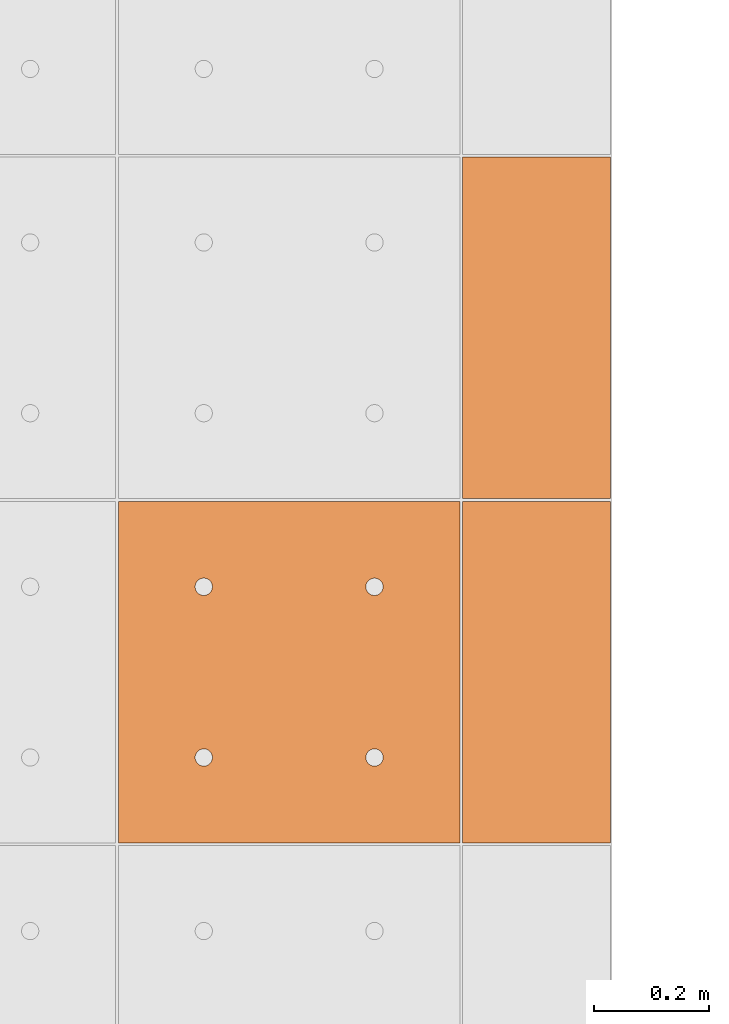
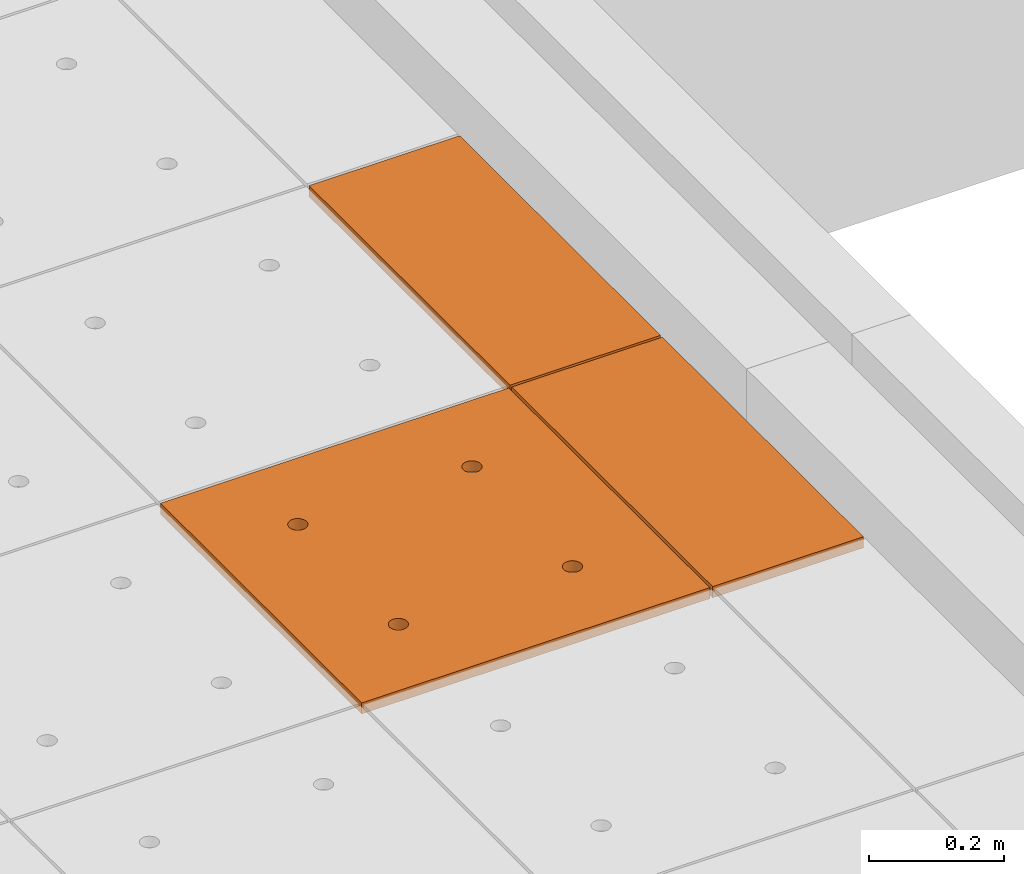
# One storey, part 294 of 338: 3 proxies, 1 element without a shape of its own.
"""IFC2X3 building model written with IfcOpenShell, lengths in millimetres."""

import ifcopenshell
import ifcopenshell.guid

model = None  # the IFC model being written
_history = None  # IfcOwnerHistory: only IFC2X3 demands one
_inside = {}  # id of a spatial element -> (the spatial element, [elements in it])
_under = {}  # id of a project, library or spatial element -> (it, [spatial elements below it])
_declared = {}  # id of a project -> (the project, [libraries it declares])
_typed = {}  # id of a type object -> (the type object, [elements of that type])
_made_of = {}  # id of a material, layer set ... -> (it, [elements and type objects made of it])


def new_model(schema):
    """Start an empty IFC model of exactly this schema.

    Asked for "IFC4X3", IfcOpenShell would pick the latest addendum, in which some entities
    have other attributes; the version numbers below select the first issue.
    IFC2X3 requires an IfcOwnerHistory on every rooted entity: one is made here for all.
    """
    global model, _history
    if schema == "IFC4X3":
        model = ifcopenshell.file(schema_version=(4, 3, 0, 0))
    else:
        model = ifcopenshell.file(schema=schema)
    _inside.clear()
    _under.clear()
    _declared.clear()
    _typed.clear()
    _made_of.clear()
    _history = None
    if model.schema == "IFC2X3":
        org = make("IfcOrganization", Name="unknown")
        user = make(
            "IfcPersonAndOrganization",
            ThePerson=make("IfcPerson", FamilyName="unknown"),
            TheOrganization=org,
        )
        app = make(
            "IfcApplication",
            ApplicationDeveloper=org,
            Version="unknown",
            ApplicationFullName="unknown",
            ApplicationIdentifier="unknown",
        )
        _history = make(
            "IfcOwnerHistory",
            OwningUser=user,
            OwningApplication=app,
            ChangeAction="ADDED",
            CreationDate=0,
        )
    return model


def make(cls, **values):
    """One entity of the class cls with the attributes given. An attribute that is None is left unset."""
    return model.create_entity(
        cls, **{name: value for name, value in values.items() if value is not None}
    )


def entity(cls, *values):
    """Any entity or typed value of the class cls, its attributes in the order of the schema. None: left unset."""
    e = model.create_entity(cls)
    for i, value in enumerate(values):
        if value is not None:
            e[i] = value
    return e


def rooted(cls, **values):
    """An entity with a GlobalId (a new one), such as an element, a storey or a relation."""
    return make(cls, GlobalId=ifcopenshell.guid.new(), OwnerHistory=_history, **values)


def si_unit(unit_type, name, prefix=None):
    """IfcSIUnit, for example si_unit("LENGTHUNIT", "METRE", prefix="MILLI")."""
    return make("IfcSIUnit", UnitType=unit_type, Prefix=prefix, Name=name)


def converted_unit(unit_type, name, factor, base, dimensions=None, offset=None):
    """IfcConversionBasedUnit, such as the inch: factor (a typed value) times the base unit."""
    return make(
        "IfcConversionBasedUnit"
        if offset is None
        else "IfcConversionBasedUnitWithOffset",
        ConversionOffset=offset,
        Dimensions=None
        if dimensions is None
        else entity("IfcDimensionalExponents", *dimensions),
        UnitType=unit_type,
        Name=name,
        ConversionFactor=make(
            "IfcMeasureWithUnit", ValueComponent=factor, UnitComponent=base
        ),
    )


def derived_unit(unit_type, elements):
    """IfcDerivedUnit: a product of units, each with its exponent."""
    return make(
        "IfcDerivedUnit",
        Elements=[
            make("IfcDerivedUnitElement", Unit=unit, Exponent=power)
            for unit, power in elements
        ],
        UnitType=unit_type,
    )


def money_unit(currency):
    """IfcMonetaryUnit."""
    return make("IfcMonetaryUnit", Currency=currency)


def assignment(units):
    """IfcUnitAssignment: the units of a project."""
    return None if units is None else make("IfcUnitAssignment", Units=units)


def point(xyz):
    """IfcCartesianPoint."""
    return None if xyz is None else make("IfcCartesianPoint", Coordinates=xyz)


def direction(xyz):
    """IfcDirection."""
    return None if xyz is None else make("IfcDirection", DirectionRatios=xyz)


def frame(location, z_axis=None, x_axis=None):
    """IfcAxis2Placement3D, a coordinate frame: its origin and axes. An axis left out is left unset."""
    return make(
        "IfcAxis2Placement3D",
        Location=point(location),
        Axis=direction(z_axis),
        RefDirection=direction(x_axis),
    )


def origin_with_axes():
    """The frame at (0, 0, 0) with the z axis (0, 0, 1) and the x axis (1, 0, 0) written out."""
    return frame((0.0, 0.0, 0.0), z_axis=(0.0, 0.0, 1.0), x_axis=(1.0, 0.0, 0.0))


def place(relative_to, where):
    """IfcLocalPlacement: puts the frame where relative to a parent placement (None: the world)."""
    return make(
        "IfcLocalPlacement", PlacementRelTo=relative_to, RelativePlacement=where
    )


def context(
    kind, dimensions, precision=None, world=None, true_north=None, identifier=None
):
    """IfcGeometricRepresentationContext, for example the 3D "Model" context."""
    return make(
        "IfcGeometricRepresentationContext",
        ContextIdentifier=identifier,
        ContextType=kind,
        CoordinateSpaceDimension=dimensions,
        Precision=precision,
        WorldCoordinateSystem=world,
        TrueNorth=true_north,
    )


def subcontext(parent, identifier, kind, view, scale=None):
    """IfcGeometricRepresentationSubContext, for example "Body" below "Model"."""
    return make(
        "IfcGeometricRepresentationSubContext",
        ContextIdentifier=identifier,
        ContextType=kind,
        ParentContext=parent,
        TargetScale=scale,
        TargetView=view,
    )


def project(units=None, contexts=None):
    """IfcProject with its units and contexts."""
    return rooted(
        "IfcProject",
        Name="project",
        RepresentationContexts=contexts,
        UnitsInContext=assignment(units),
    )


def spatial(cls, under=None, at=None, **own):
    """A site, building, storey or space (cls), placed at a placement, below another one or the project."""
    s = rooted(cls, ObjectPlacement=at, **own)
    if under is not None:
        _under.setdefault(under.id(), (under, []))[1].append(s)
    return s


def faces_of(points, faces, orient=None, outer=None):
    """IfcFace entities. A face is a list of loops; a loop is a list of indices into points, from 0.

    orient and outer hold one flag for each loop. By default every Orientation is true, the
    first loop of a face is its IfcFaceOuterBound and the others are IfcFaceBound.
    """
    made = []
    for i, loops in enumerate(faces):
        bounds = []
        for j, loop in enumerate(loops):
            is_outer = j == 0 if outer is None else outer[i][j]
            bounds.append(
                make(
                    "IfcFaceOuterBound" if is_outer else "IfcFaceBound",
                    Bound=make("IfcPolyLoop", Polygon=[points[k] for k in loop]),
                    Orientation=True if orient is None else orient[i][j],
                )
            )
        made.append(make("IfcFace", Bounds=bounds))
    return made


def faceted_brep(points, faces, orient=None, outer=None, voids=None):
    """IfcFacetedBrep: a solid bounded by flat faces; with voids (closed shells), ...WithVoids."""
    shared = [point(p) for p in points]
    hull = make("IfcClosedShell", CfsFaces=faces_of(shared, faces, orient, outer))
    if voids is None:
        return make("IfcFacetedBrep", Outer=hull)
    return make(
        "IfcFacetedBrepWithVoids",
        Outer=hull,
        Voids=[
            make(cls, CfsFaces=faces_of(shared, fs, o, b)) for cls, fs, o, b in voids
        ],
    )


def shape(context_of_items, identifier, shape_type, items):
    """IfcShapeRepresentation: the items that make up one representation, for example the "Body"."""
    return make(
        "IfcShapeRepresentation",
        ContextOfItems=context_of_items,
        RepresentationIdentifier=identifier,
        RepresentationType=shape_type,
        Items=items,
    )


def source(mapping_origin, context_of_items, identifier, shape_type, items):
    """IfcRepresentationMap: a shape defined once, which mapped items show again and again."""
    return make(
        "IfcRepresentationMap",
        MappingOrigin=mapping_origin,
        MappedRepresentation=shape(context_of_items, identifier, shape_type, items),
    )


def transform(
    local_origin,
    x_axis=None,
    y_axis=None,
    z_axis=None,
    scale=None,
    scale2=None,
    scale3=None,
    uniform=True,
):
    """IfcCartesianTransformationOperator3D, or its non-uniform kind. x_axis, y_axis, z_axis: its Axis1, 2, 3."""
    if uniform:
        return make(
            "IfcCartesianTransformationOperator3D",
            Axis1=direction(x_axis),
            Axis2=direction(y_axis),
            LocalOrigin=point(local_origin),
            Scale=scale,
            Axis3=direction(z_axis),
        )
    return make(
        "IfcCartesianTransformationOperator3DnonUniform",
        Axis1=direction(x_axis),
        Axis2=direction(y_axis),
        LocalOrigin=point(local_origin),
        Scale=scale,
        Axis3=direction(z_axis),
        Scale2=scale2,
        Scale3=scale3,
    )


def mapped(mapping_source, mapping_target):
    """IfcMappedItem: shows the shape of a source again, moved by a transform."""
    return make(
        "IfcMappedItem", MappingSource=mapping_source, MappingTarget=mapping_target
    )


def material(Name=None, Category=None):
    """IfcMaterial."""
    return make("IfcMaterial", Name=Name, Category=Category)


def made_of(thing, what):
    """Note that an element or type object is made of a material, layer set ...; save() writes the relation."""
    if what is not None:
        _made_of.setdefault(what.id(), (what, []))[1].append(thing)
    return thing


def type_object(cls, material=None, **own):
    """A type object (cls), such as IfcWallType, which elements share."""
    return made_of(rooted(cls, **own), material)


def type_shapes(of_type, sources):
    """Give a type object the sources (RepresentationMaps) that its elements show as mapped items."""
    of_type.RepresentationMaps = sources


def element(
    cls,
    number,
    at=None,
    inside=None,
    cuts=None,
    type_object=None,
    material=None,
    context=None,
    identifier="Body",
    shape_type=None,
    held_by="IfcProductDefinitionShape",
    body=None,
    shapes=None,
    **own,
):
    """One element of the class cls, such as IfcWall. Its Tag is "e" and its number.

    at: its placement. inside: the storey or other place that contains it. cuts: it is an
    opening in that element (IfcRelVoidsElement). A single representation is given by context,
    identifier, shape_type and body (its items); several are given by shapes. held_by: the class
    of the entity that holds the representations. save() writes the other relations.
    """
    e = rooted(cls, Tag="e%d" % number, ObjectPlacement=at, **own)
    if body is not None:
        shapes = [shape(context, identifier, shape_type, body)]
    if shapes is not None:
        e.Representation = make(held_by, Representations=shapes)
    if inside is not None:
        _inside.setdefault(inside.id(), (inside, []))[1].append(e)
    if cuts is not None:
        rooted(
            "IfcRelVoidsElement", RelatingBuildingElement=cuts, RelatedOpeningElement=e
        )
    if type_object is not None:
        _typed.setdefault(type_object.id(), (type_object, []))[1].append(e)
    return made_of(e, material)


def aggregate(whole, parts):
    """IfcRelAggregates: a whole, such as a stair, and the parts it consists of."""
    return rooted("IfcRelAggregates", RelatingObject=whole, RelatedObjects=parts)


def save(model, path):
    """Write the relations noted so far, then the file.

    IfcRelAggregates (storeys below a building ...), IfcRelContainedInSpatialStructure (elements
    in a storey), IfcRelDefinesByType, IfcRelAssociatesMaterial and IfcRelDeclares: one each for
    every whole, place, type object, material and project.
    """
    for whole, parts in _under.values():
        aggregate(whole, parts)
    for where, things in _inside.values():
        rooted(
            "IfcRelContainedInSpatialStructure",
            RelatedElements=things,
            RelatingStructure=where,
        )
    for kind, things in _typed.values():
        rooted("IfcRelDefinesByType", RelatedObjects=things, RelatingType=kind)
    for what, things in _made_of.values():
        rooted("IfcRelAssociatesMaterial", RelatedObjects=things, RelatingMaterial=what)
    for by, libraries in _declared.values():
        rooted("IfcRelDeclares", RelatingContext=by, RelatedDefinitions=libraries)
    model.write(path)


model = new_model("IFC2X3")

# Units and contexts
model_context = context("Model", 3, precision=0.01, world=origin_with_axes(), true_north=direction((0.0, 1.0)))
plan_context = context("Plan", 3, precision=0.01, world=origin_with_axes(), true_north=direction((0.0, 1.0)))
body_context = subcontext(model_context, "Body", "Model", "MODEL_VIEW")
ifc_project = project(units=[si_unit("LENGTHUNIT", "METRE", prefix="MILLI"), si_unit("AREAUNIT", "SQUARE_METRE"), si_unit("VOLUMEUNIT", "CUBIC_METRE"), converted_unit("PLANEANGLEUNIT", "DEGREE", entity("IfcPlaneAngleMeasure", 0.0174532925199), si_unit("PLANEANGLEUNIT", "RADIAN"), dimensions=[0, 0, 0, 0, 0, 0, 0]), money_unit("EUR"), converted_unit("TIMEUNIT", "Year", entity("IfcTimeMeasure", 31556926.0), si_unit("TIMEUNIT", "SECOND"), dimensions=[0, 0, 1, 0, 0, 0, 0]), si_unit("MASSUNIT", "GRAM", prefix="KILO"), si_unit("THERMODYNAMICTEMPERATUREUNIT", "DEGREE_CELSIUS"), si_unit("LUMINOUSINTENSITYUNIT", "LUMEN"), si_unit("ENERGYUNIT", "JOULE", prefix="MEGA"), derived_unit("THERMALCONDUCTANCEUNIT", [(si_unit("POWERUNIT", "WATT"), 1), (si_unit("LENGTHUNIT", "METRE"), -1), (si_unit("THERMODYNAMICTEMPERATUREUNIT", "KELVIN"), -1)]), derived_unit("SPECIFICHEATCAPACITYUNIT", [(si_unit("ENERGYUNIT", "JOULE"), 1), (si_unit("MASSUNIT", "GRAM", prefix="KILO"), -1), (si_unit("THERMODYNAMICTEMPERATUREUNIT", "KELVIN"), -1)]), derived_unit("MASSDENSITYUNIT", [(si_unit("MASSUNIT", "GRAM", prefix="KILO"), 1), (si_unit("VOLUMEUNIT", "CUBIC_METRE"), -1)])], contexts=[model_context, plan_context])

# Site, building, storey
site_placement = place(None, origin_with_axes())
site = spatial("IfcSite", under=ifc_project, at=site_placement, Name="Fortuinstraat Woensdrecht", CompositionType="ELEMENT")
building_placement = place(site_placement, origin_with_axes())
building = spatial("IfcBuilding", under=site, at=building_placement, Name="IKC Fortuna", CompositionType="ELEMENT")
storey_placement = place(building_placement, origin_with_axes())
storey = spatial("IfcBuildingStorey", under=building, at=storey_placement, Name="00 begane grond", CompositionType="ELEMENT", Elevation=0.0)

# Covering, proxies
covering_type = type_object("IfcCoveringType", Name="Curtain Wall Type", PredefinedType="CEILING")
covering_placement = place(storey_placement, frame((31656.9226967, 15748.5304598, 3210.0), z_axis=(0.0, 0.0, 1.0), x_axis=(1.0, 0.0, 0.0)))
covering = element("IfcCovering", 1, at=covering_placement, inside=storey, type_object=covering_type, Name="45_Plafondafwerking_P01", PredefinedType="CEILING")
ifc_material = material(Name="Gipsplaat")
building_element_proxy_type_1 = type_object("IfcBuildingElementProxyType", Name="Main Panel 600 x 600 x 20", PredefinedType="NOTDEFINED")
shared_shape_1 = source(origin_with_axes(), body_context, "Body", "Brep", [
    faceted_brep([(2.49999999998, 2.49999999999, -10.0), (300.0, 2.49999999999, -10.0), (300.0, 2.49999999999, 10.0), (2.49999999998, 2.49999999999, 10.0), (2.49999999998, 300.0, -10.0), (2.49999999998, 597.5, -10.0), (300.0, 597.5, -10.0), (597.5, 597.5, -10.0), (597.5, 300.0, -10.0), (597.5, 2.49999999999, -10.0), (166.25, 450.06232995, -10.0), (165.79423259, 452.64711538, -10.0), (164.896546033, 455.11348892, -10.0), (163.58421608, 457.38651108, -10.0), (161.897117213, 459.39711721, -10.0), (159.886511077, 461.08421608, -10.0), (157.613488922, 462.39654603, -10.0), (155.147115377, 463.29423259, -10.0), (152.562329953, 463.75, -10.0), (149.937670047, 463.75, -10.0), (147.352884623, 463.29423259, -10.0), (144.886511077, 462.39654603, -10.0), (142.613488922, 461.08421608, -10.0), (140.602882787, 459.39711721, -10.0), (138.91578392, 457.38651108, -10.0), (137.603453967, 455.11348892, -10.0), (136.705767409, 452.64711538, -10.0), (136.25, 450.06232995, -10.0), (136.25, 448.75, -10.0), (136.25, 447.43767005, -10.0), (136.705767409, 444.85288462, -10.0), (137.603453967, 442.38651108, -10.0), (138.91578392, 440.11348892, -10.0), (140.602882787, 438.10288279, -10.0), (142.613488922, 436.41578392, -10.0), (144.886511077, 435.10345397, -10.0), (147.352884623, 434.20576741, -10.0), (149.937670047, 433.75, -10.0), (152.562329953, 433.75, -10.0), (155.147115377, 434.20576741, -10.0), (157.613488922, 435.10345397, -10.0), (159.886511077, 436.41578392, -10.0), (161.897117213, 438.10288279, -10.0), (163.58421608, 440.11348892, -10.0), (164.896546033, 442.38651108, -10.0), (165.79423259, 444.85288462, -10.0), (166.25, 447.43767005, -10.0), (463.75, 450.06232995, -10.0), (463.29423259, 452.64711538, -10.0), (462.396546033, 455.11348892, -10.0), (461.08421608, 457.38651108, -10.0), (459.397117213, 459.39711721, -10.0), (457.386511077, 461.08421608, -10.0), (455.113488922, 462.39654603, -10.0), (452.647115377, 463.29423259, -10.0), (450.062329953, 463.75, -10.0), (447.437670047, 463.75, -10.0), (444.852884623, 463.29423259, -10.0), (442.386511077, 462.39654603, -10.0), (440.113488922, 461.08421608, -10.0), (438.102882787, 459.39711721, -10.0), (436.41578392, 457.38651108, -10.0), (435.103453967, 455.11348892, -10.0), (434.205767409, 452.64711538, -10.0), (433.75, 450.06232995, -10.0), (433.75, 448.75, -10.0), (433.75, 447.43767005, -10.0), (434.205767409, 444.85288462, -10.0), (435.103453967, 442.38651108, -10.0), (436.41578392, 440.11348892, -10.0), (438.102882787, 438.10288279, -10.0), (440.113488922, 436.41578392, -10.0), (442.386511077, 435.10345397, -10.0), (444.852884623, 434.20576741, -10.0), (447.437670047, 433.75, -10.0), (450.062329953, 433.75, -10.0), (452.647115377, 434.20576741, -10.0), (455.113488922, 435.10345397, -10.0), (457.386511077, 436.41578392, -10.0), (459.397117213, 438.10288279, -10.0), (461.08421608, 440.11348892, -10.0), (462.396546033, 442.38651108, -10.0), (463.29423259, 444.85288462, -10.0), (463.75, 447.43767005, -10.0), (463.75, 152.56232995, -10.0), (463.29423259, 155.14711538, -10.0), (462.396546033, 157.61348892, -10.0), (461.08421608, 159.88651108, -10.0), (459.397117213, 161.89711721, -10.0), (457.386511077, 163.58421608, -10.0), (455.113488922, 164.89654603, -10.0), (452.647115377, 165.79423259, -10.0), (450.062329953, 166.25, -10.0), (447.437670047, 166.25, -10.0), (444.852884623, 165.79423259, -10.0), (442.386511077, 164.89654603, -10.0), (440.113488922, 163.58421608, -10.0), (438.102882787, 161.89711721, -10.0), (436.41578392, 159.88651108, -10.0), (435.103453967, 157.61348892, -10.0), (434.205767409, 155.14711538, -10.0), (433.75, 152.56232995, -10.0), (433.75, 151.25, -10.0), (433.75, 149.93767005, -10.0), (434.205767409, 147.35288462, -10.0), (435.103453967, 144.88651108, -10.0), (436.41578392, 142.61348892, -10.0), (438.102882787, 140.60288279, -10.0), (440.113488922, 138.91578392, -10.0), (442.386511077, 137.60345397, -10.0), (444.852884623, 136.70576741, -10.0), (447.437670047, 136.25, -10.0), (450.062329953, 136.25, -10.0), (452.647115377, 136.70576741, -10.0), (455.113488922, 137.60345397, -10.0), (457.386511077, 138.91578392, -10.0), (459.397117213, 140.60288279, -10.0), (461.08421608, 142.61348892, -10.0), (462.396546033, 144.88651108, -10.0), (463.29423259, 147.35288462, -10.0), (463.75, 149.93767005, -10.0), (166.25, 152.56232995, -10.0), (165.79423259, 155.14711538, -10.0), (164.896546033, 157.61348892, -10.0), (163.58421608, 159.88651108, -10.0), (161.897117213, 161.89711721, -10.0), (159.886511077, 163.58421608, -10.0), (157.613488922, 164.89654603, -10.0), (155.147115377, 165.79423259, -10.0), (152.562329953, 166.25, -10.0), (149.937670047, 166.25, -10.0), (147.352884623, 165.79423259, -10.0), (144.886511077, 164.89654603, -10.0), (142.613488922, 163.58421608, -10.0), (140.602882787, 161.89711721, -10.0), (138.91578392, 159.88651108, -10.0), (137.603453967, 157.61348892, -10.0), (136.705767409, 155.14711538, -10.0), (136.25, 152.56232995, -10.0), (136.25, 151.25, -10.0), (136.25, 149.93767005, -10.0), (136.705767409, 147.35288462, -10.0), (137.603453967, 144.88651108, -10.0), (138.91578392, 142.61348892, -10.0), (140.602882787, 140.60288279, -10.0), (142.613488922, 138.91578392, -10.0), (144.886511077, 137.60345397, -10.0), (147.352884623, 136.70576741, -10.0), (149.937670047, 136.25, -10.0), (152.562329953, 136.25, -10.0), (155.147115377, 136.70576741, -10.0), (157.613488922, 137.60345397, -10.0), (159.886511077, 138.91578392, -10.0), (161.897117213, 140.60288279, -10.0), (163.58421608, 142.61348892, -10.0), (164.896546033, 144.88651108, -10.0), (165.79423259, 147.35288462, -10.0), (166.25, 149.93767005, -10.0), (597.5, 2.49999999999, 10.0), (597.5, 300.0, 10.0), (597.5, 597.5, 10.0), (300.0, 597.5, 10.0), (2.49999999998, 597.5, 10.0), (2.49999999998, 300.0, 10.0), (166.25, 450.06232995, 10.0), (166.25, 447.43767005, 10.0), (165.79423259, 444.85288462, 10.0), (164.896546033, 442.38651108, 10.0), (163.58421608, 440.11348892, 10.0), (161.897117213, 438.10288279, 10.0), (159.886511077, 436.41578392, 10.0), (157.613488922, 435.10345397, 10.0), (155.147115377, 434.20576741, 10.0), (152.562329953, 433.75, 10.0), (149.937670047, 433.75, 10.0), (147.352884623, 434.20576741, 10.0), (144.886511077, 435.10345397, 10.0), (142.613488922, 436.41578392, 10.0), (140.602882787, 438.10288279, 10.0), (138.91578392, 440.11348892, 10.0), (137.603453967, 442.38651108, 10.0), (136.705767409, 444.85288462, 10.0), (136.25, 447.43767005, 10.0), (136.25, 448.75, 10.0), (136.25, 450.06232995, 10.0), (136.705767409, 452.64711538, 10.0), (137.603453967, 455.11348892, 10.0), (138.91578392, 457.38651108, 10.0), (140.602882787, 459.39711721, 10.0), (142.613488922, 461.08421608, 10.0), (144.886511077, 462.39654603, 10.0), (147.352884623, 463.29423259, 10.0), (149.937670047, 463.75, 10.0), (152.562329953, 463.75, 10.0), (155.147115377, 463.29423259, 10.0), (157.613488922, 462.39654603, 10.0), (159.886511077, 461.08421608, 10.0), (161.897117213, 459.39711721, 10.0), (163.58421608, 457.38651108, 10.0), (164.896546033, 455.11348892, 10.0), (165.79423259, 452.64711538, 10.0), (463.75, 450.06232995, 10.0), (463.75, 447.43767005, 10.0), (463.29423259, 444.85288462, 10.0), (462.396546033, 442.38651108, 10.0), (461.08421608, 440.11348892, 10.0), (459.397117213, 438.10288279, 10.0), (457.386511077, 436.41578392, 10.0), (455.113488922, 435.10345397, 10.0), (452.647115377, 434.20576741, 10.0), (450.062329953, 433.75, 10.0), (447.437670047, 433.75, 10.0), (444.852884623, 434.20576741, 10.0), (442.386511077, 435.10345397, 10.0), (440.113488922, 436.41578392, 10.0), (438.102882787, 438.10288279, 10.0), (436.41578392, 440.11348892, 10.0), (435.103453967, 442.38651108, 10.0), (434.205767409, 444.85288462, 10.0), (433.75, 447.43767005, 10.0), (433.75, 448.75, 10.0), (433.75, 450.06232995, 10.0), (434.205767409, 452.64711538, 10.0), (435.103453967, 455.11348892, 10.0), (436.41578392, 457.38651108, 10.0), (438.102882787, 459.39711721, 10.0), (440.113488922, 461.08421608, 10.0), (442.386511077, 462.39654603, 10.0), (444.852884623, 463.29423259, 10.0), (447.437670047, 463.75, 10.0), (450.062329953, 463.75, 10.0), (452.647115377, 463.29423259, 10.0), (455.113488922, 462.39654603, 10.0), (457.386511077, 461.08421608, 10.0), (459.397117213, 459.39711721, 10.0), (461.08421608, 457.38651108, 10.0), (462.396546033, 455.11348892, 10.0), (463.29423259, 452.64711538, 10.0), (463.75, 152.56232995, 10.0), (463.75, 149.93767005, 10.0), (463.29423259, 147.35288462, 10.0), (462.396546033, 144.88651108, 10.0), (461.08421608, 142.61348892, 10.0), (459.397117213, 140.60288279, 10.0), (457.386511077, 138.91578392, 10.0), (455.113488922, 137.60345397, 10.0), (452.647115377, 136.70576741, 10.0), (450.062329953, 136.25, 10.0), (447.437670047, 136.25, 10.0), (444.852884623, 136.70576741, 10.0), (442.386511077, 137.60345397, 10.0), (440.113488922, 138.91578392, 10.0), (438.102882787, 140.60288279, 10.0), (436.41578392, 142.61348892, 10.0), (435.103453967, 144.88651108, 10.0), (434.205767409, 147.35288462, 10.0), (433.75, 149.93767005, 10.0), (433.75, 151.25, 10.0), (433.75, 152.56232995, 10.0), (434.205767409, 155.14711538, 10.0), (435.103453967, 157.61348892, 10.0), (436.41578392, 159.88651108, 10.0), (438.102882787, 161.89711721, 10.0), (440.113488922, 163.58421608, 10.0), (442.386511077, 164.89654603, 10.0), (444.852884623, 165.79423259, 10.0), (447.437670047, 166.25, 10.0), (450.062329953, 166.25, 10.0), (452.647115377, 165.79423259, 10.0), (455.113488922, 164.89654603, 10.0), (457.386511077, 163.58421608, 10.0), (459.397117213, 161.89711721, 10.0), (461.08421608, 159.88651108, 10.0), (462.396546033, 157.61348892, 10.0), (463.29423259, 155.14711538, 10.0), (166.25, 152.56232995, 10.0), (166.25, 149.93767005, 10.0), (165.79423259, 147.35288462, 10.0), (164.896546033, 144.88651108, 10.0), (163.58421608, 142.61348892, 10.0), (161.897117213, 140.60288279, 10.0), (159.886511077, 138.91578392, 10.0), (157.613488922, 137.60345397, 10.0), (155.147115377, 136.70576741, 10.0), (152.562329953, 136.25, 10.0), (149.937670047, 136.25, 10.0), (147.352884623, 136.70576741, 10.0), (144.886511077, 137.60345397, 10.0), (142.613488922, 138.91578392, 10.0), (140.602882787, 140.60288279, 10.0), (138.91578392, 142.61348892, 10.0), (137.603453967, 144.88651108, 10.0), (136.705767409, 147.35288462, 10.0), (136.25, 149.93767005, 10.0), (136.25, 151.25, 10.0), (136.25, 152.56232995, 10.0), (136.705767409, 155.14711538, 10.0), (137.603453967, 157.61348892, 10.0), (138.91578392, 159.88651108, 10.0), (140.602882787, 161.89711721, 10.0), (142.613488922, 163.58421608, 10.0), (144.886511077, 164.89654603, 10.0), (147.352884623, 165.79423259, 10.0), (149.937670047, 166.25, 10.0), (152.562329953, 166.25, 10.0), (155.147115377, 165.79423259, 10.0), (157.613488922, 164.89654603, 10.0), (159.886511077, 163.58421608, 10.0), (161.897117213, 161.89711721, 10.0), (163.58421608, 159.88651108, 10.0), (164.896546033, 157.61348892, 10.0), (165.79423259, 155.14711538, 10.0)], [[[0, 1, 2, 3]], [[0, 4, 5, 6, 7, 8, 9, 1], [10, 11, 12, 13, 14, 15, 16, 17, 18, 19, 20, 21, 22, 23, 24, 25, 26, 27, 28, 29, 30, 31, 32, 33, 34, 35, 36, 37, 38, 39, 40, 41, 42, 43, 44, 45, 46], [47, 48, 49, 50, 51, 52, 53, 54, 55, 56, 57, 58, 59, 60, 61, 62, 63, 64, 65, 66, 67, 68, 69, 70, 71, 72, 73, 74, 75, 76, 77, 78, 79, 80, 81, 82, 83], [84, 85, 86, 87, 88, 89, 90, 91, 92, 93, 94, 95, 96, 97, 98, 99, 100, 101, 102, 103, 104, 105, 106, 107, 108, 109, 110, 111, 112, 113, 114, 115, 116, 117, 118, 119, 120], [121, 122, 123, 124, 125, 126, 127, 128, 129, 130, 131, 132, 133, 134, 135, 136, 137, 138, 139, 140, 141, 142, 143, 144, 145, 146, 147, 148, 149, 150, 151, 152, 153, 154, 155, 156, 157]], [[1, 9, 158, 2]], [[3, 2, 158, 159, 160, 161, 162, 163], [164, 165, 166, 167, 168, 169, 170, 171, 172, 173, 174, 175, 176, 177, 178, 179, 180, 181, 182, 183, 184, 185, 186, 187, 188, 189, 190, 191, 192, 193, 194, 195, 196, 197, 198, 199, 200], [201, 202, 203, 204, 205, 206, 207, 208, 209, 210, 211, 212, 213, 214, 215, 216, 217, 218, 219, 220, 221, 222, 223, 224, 225, 226, 227, 228, 229, 230, 231, 232, 233, 234, 235, 236, 237], [238, 239, 240, 241, 242, 243, 244, 245, 246, 247, 248, 249, 250, 251, 252, 253, 254, 255, 256, 257, 258, 259, 260, 261, 262, 263, 264, 265, 266, 267, 268, 269, 270, 271, 272, 273, 274], [275, 276, 277, 278, 279, 280, 281, 282, 283, 284, 285, 286, 287, 288, 289, 290, 291, 292, 293, 294, 295, 296, 297, 298, 299, 300, 301, 302, 303, 304, 305, 306, 307, 308, 309, 310, 311]], [[4, 0, 3, 163]], [[5, 4, 163, 162]], [[6, 5, 162, 161]], [[7, 6, 161, 160]], [[8, 7, 160, 159]], [[9, 8, 159, 158]], [[11, 10, 164, 200]], [[12, 11, 200, 199]], [[13, 12, 199, 198]], [[14, 13, 198, 197]], [[15, 14, 197, 196]], [[16, 15, 196, 195]], [[17, 16, 195, 194]], [[18, 17, 194, 193]], [[19, 18, 193, 192]], [[20, 19, 192, 191]], [[21, 20, 191, 190]], [[22, 21, 190, 189]], [[23, 22, 189, 188]], [[24, 23, 188, 187]], [[25, 24, 187, 186]], [[26, 25, 186, 185]], [[27, 26, 185, 184]], [[28, 27, 184, 183]], [[29, 28, 183, 182]], [[30, 29, 182, 181]], [[31, 30, 181, 180]], [[32, 31, 180, 179]], [[33, 32, 179, 178]], [[34, 33, 178, 177]], [[35, 34, 177, 176]], [[36, 35, 176, 175]], [[37, 36, 175, 174]], [[38, 37, 174, 173]], [[39, 38, 173, 172]], [[40, 39, 172, 171]], [[41, 40, 171, 170]], [[42, 41, 170, 169]], [[43, 42, 169, 168]], [[44, 43, 168, 167]], [[45, 44, 167, 166]], [[46, 45, 166, 165]], [[10, 46, 165, 164]], [[48, 47, 201, 237]], [[49, 48, 237, 236]], [[50, 49, 236, 235]], [[51, 50, 235, 234]], [[52, 51, 234, 233]], [[53, 52, 233, 232]], [[54, 53, 232, 231]], [[55, 54, 231, 230]], [[56, 55, 230, 229]], [[57, 56, 229, 228]], [[58, 57, 228, 227]], [[59, 58, 227, 226]], [[60, 59, 226, 225]], [[61, 60, 225, 224]], [[62, 61, 224, 223]], [[63, 62, 223, 222]], [[64, 63, 222, 221]], [[65, 64, 221, 220]], [[66, 65, 220, 219]], [[67, 66, 219, 218]], [[68, 67, 218, 217]], [[69, 68, 217, 216]], [[70, 69, 216, 215]], [[71, 70, 215, 214]], [[72, 71, 214, 213]], [[73, 72, 213, 212]], [[74, 73, 212, 211]], [[75, 74, 211, 210]], [[76, 75, 210, 209]], [[77, 76, 209, 208]], [[78, 77, 208, 207]], [[79, 78, 207, 206]], [[80, 79, 206, 205]], [[81, 80, 205, 204]], [[82, 81, 204, 203]], [[83, 82, 203, 202]], [[47, 83, 202, 201]], [[85, 84, 238, 274]], [[86, 85, 274, 273]], [[87, 86, 273, 272]], [[88, 87, 272, 271]], [[89, 88, 271, 270]], [[90, 89, 270, 269]], [[91, 90, 269, 268]], [[92, 91, 268, 267]], [[93, 92, 267, 266]], [[94, 93, 266, 265]], [[95, 94, 265, 264]], [[96, 95, 264, 263]], [[97, 96, 263, 262]], [[98, 97, 262, 261]], [[99, 98, 261, 260]], [[100, 99, 260, 259]], [[101, 100, 259, 258]], [[102, 101, 258, 257]], [[103, 102, 257, 256]], [[104, 103, 256, 255]], [[105, 104, 255, 254]], [[106, 105, 254, 253]], [[107, 106, 253, 252]], [[108, 107, 252, 251]], [[109, 108, 251, 250]], [[110, 109, 250, 249]], [[111, 110, 249, 248]], [[112, 111, 248, 247]], [[113, 112, 247, 246]], [[114, 113, 246, 245]], [[115, 114, 245, 244]], [[116, 115, 244, 243]], [[117, 116, 243, 242]], [[118, 117, 242, 241]], [[119, 118, 241, 240]], [[120, 119, 240, 239]], [[84, 120, 239, 238]], [[122, 121, 275, 311]], [[123, 122, 311, 310]], [[124, 123, 310, 309]], [[125, 124, 309, 308]], [[126, 125, 308, 307]], [[127, 126, 307, 306]], [[128, 127, 306, 305]], [[129, 128, 305, 304]], [[130, 129, 304, 303]], [[131, 130, 303, 302]], [[132, 131, 302, 301]], [[133, 132, 301, 300]], [[134, 133, 300, 299]], [[135, 134, 299, 298]], [[136, 135, 298, 297]], [[137, 136, 297, 296]], [[138, 137, 296, 295]], [[139, 138, 295, 294]], [[140, 139, 294, 293]], [[141, 140, 293, 292]], [[142, 141, 292, 291]], [[143, 142, 291, 290]], [[144, 143, 290, 289]], [[145, 144, 289, 288]], [[146, 145, 288, 287]], [[147, 146, 287, 286]], [[148, 147, 286, 285]], [[149, 148, 285, 284]], [[150, 149, 284, 283]], [[151, 150, 283, 282]], [[152, 151, 282, 281]], [[153, 152, 281, 280]], [[154, 153, 280, 279]], [[155, 154, 279, 278]], [[156, 155, 278, 277]], [[157, 156, 277, 276]], [[121, 157, 276, 275]]]),
])
type_shapes(building_element_proxy_type_1, [shared_shape_1])
proxy_1_placement = place(covering_placement, frame((2400.0, 0.0, 0.0), z_axis=(0.0, 0.0, 1.0), x_axis=(1.0, 0.0, 0.0)))
proxy_1 = element("IfcBuildingElementProxy", 2, at=proxy_1_placement, type_object=building_element_proxy_type_1, material=ifc_material, Name="__600x747 Rockfon Krios", context=body_context, shape_type="MappedRepresentation", body=[
    mapped(shared_shape_1, transform((300.0, 300.0, 0.0), x_axis=(-1.0, 0.0, 0.0), y_axis=(0.0, -1.0, 0.0), z_axis=(0.0, 0.0, 1.0))),
])
building_element_proxy_type_2 = type_object("IfcBuildingElementProxyType", Name="263 x 600 x 20", PredefinedType="NOTDEFINED")
shared_shape_2 = source(origin_with_axes(), body_context, "Body", "Brep", [
    faceted_brep([(339.99569058, 2.5, -10.0), (597.5, 2.49999999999, -10.0), (597.5, 2.49999999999, 10.0), (339.99569058, 2.5, 10.0), (339.99569058, 597.5, -10.0), (597.5, 597.5, -10.0), (597.5, 597.5, 10.0), (339.99569058, 597.5, 10.0)], [[[0, 1, 2, 3]], [[0, 4, 5, 1]], [[1, 5, 6, 2]], [[3, 2, 6, 7]], [[4, 0, 3, 7]], [[5, 4, 7, 6]]]),
])
type_shapes(building_element_proxy_type_2, [shared_shape_2])
proxy_2_placement = place(covering_placement, frame((2831.25215667, 0.0, 0.0), z_axis=(0.0, 0.0, 1.0), x_axis=(1.0, 0.0, 0.0)))
proxy_2 = element("IfcBuildingElementProxy", 3, at=proxy_2_placement, type_object=building_element_proxy_type_2, material=ifc_material, Name="__600x698 Rockfon Krios", context=body_context, shape_type="MappedRepresentation", body=[
    mapped(shared_shape_2, transform((468.747843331, 300.0, 0.0), x_axis=(-1.0, 0.0, 0.0), y_axis=(0.0, -1.0, 0.0), z_axis=(0.0, 0.0, 1.0))),
])
proxy_3_placement = place(covering_placement, frame((2831.25215667, 600.0, 0.0), z_axis=(0.0, 0.0, 1.0), x_axis=(1.0, 0.0, 0.0)))
proxy_3 = element("IfcBuildingElementProxy", 4, at=proxy_3_placement, type_object=building_element_proxy_type_2, material=ifc_material, Name="__600x766 Rockfon Krios", context=body_context, shape_type="MappedRepresentation", body=[
    mapped(shared_shape_2, transform((468.747843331, 300.0, 0.0), x_axis=(-1.0, 0.0, 0.0), y_axis=(0.0, -1.0, 0.0), z_axis=(0.0, 0.0, 1.0))),
])
aggregate(covering, [proxy_2, proxy_1, proxy_3])

save(model, "model.ifc")
